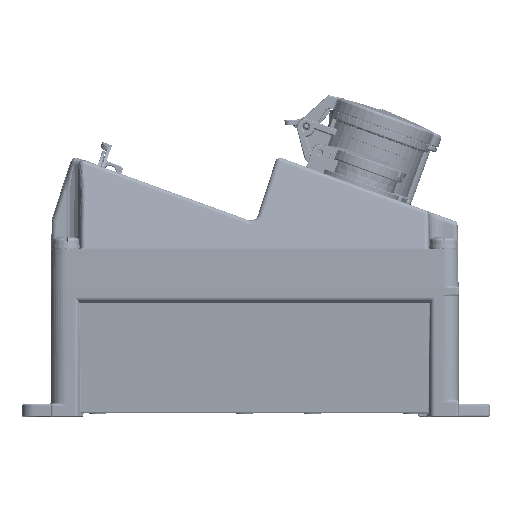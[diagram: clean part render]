
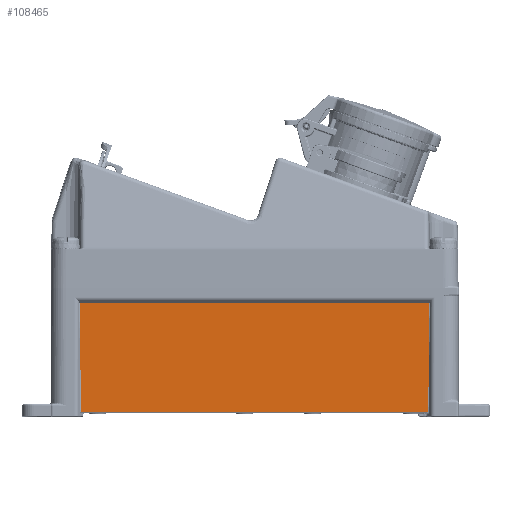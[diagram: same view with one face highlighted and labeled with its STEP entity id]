
A CAD part, left-side view. The second image highlights one B-rep face of the part: STEP entity #108465.
In plain terms, the highlighted planar face has unit normal (-1, 0, -0.018).
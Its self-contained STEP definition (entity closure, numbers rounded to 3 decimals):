
#17127=CARTESIAN_POINT('',(3.779,20.212,2.983));
#17128=CARTESIAN_POINT('',(3.779,20.204,2.983));
#17129=CARTESIAN_POINT('',(3.779,20.189,2.982));
#17130=CARTESIAN_POINT('',(3.779,20.167,2.982));
#17131=CARTESIAN_POINT('',(3.779,20.153,2.982));
#17132=CARTESIAN_POINT('',(3.779,20.145,2.981));
#17146=DIRECTION('',(0.,-1.,0.));
#17147=VECTOR('',#17146,220.443);
#17148=CARTESIAN_POINT('',(3.779,240.655,2.983));
#17149=LINE('40221',#17148,#17147);
#17249=CARTESIAN_POINT('',(3.779,20.145,2.981));
#17250=CARTESIAN_POINT('',(3.779,20.05,2.978));
#17251=CARTESIAN_POINT('',(3.779,19.864,2.959));
#17252=CARTESIAN_POINT('',(3.78,19.592,2.89));
#17253=CARTESIAN_POINT('',(3.782,19.427,2.822));
#17254=CARTESIAN_POINT('',(3.782,19.347,2.782));
#17256=CARTESIAN_POINT('',(3.782,19.347,2.782));
#17264=DIRECTION('',(-0.017,0.01,1.));
#17265=VECTOR('',#17264,69.263);
#17266=CARTESIAN_POINT('',(3.779,240.655,2.983));
#17267=LINE('40229',#17266,#17265);
#17268=DIRECTION('',(0.017,0.01,-1.));
#17269=VECTOR('',#17268,69.464);
#17270=CARTESIAN_POINT('',(2.57,18.647,72.232));
#17271=LINE('40243',#17270,#17269);
#17272=DIRECTION('',(0.,1.,0.));
#17273=VECTOR('',#17272,222.705);
#17274=CARTESIAN_POINT('',(2.57,18.647,72.232));
#17275=LINE('40242',#17274,#17273);
#17276=CARTESIAN_POINT('',(2.57,241.353,72.232));
#65455=CARTESIAN_POINT('',(3.779,20.212,2.983));
#65456=VERTEX_POINT('',#65455);
#65457=VERTEX_POINT('',#17132);
#65459=CARTESIAN_POINT('',(3.779,240.655,2.983));
#65460=VERTEX_POINT('',#65459);
#65466=VERTEX_POINT('',#17276);
#65475=VERTEX_POINT('',#17256);
#65476=CARTESIAN_POINT('',(2.57,18.647,72.232));
#65477=VERTEX_POINT('',#65476);
#108450=CARTESIAN_POINT('',(2.566,243.125,72.434));
#108451=DIRECTION('',(1.,0.,0.017));
#108452=DIRECTION('',(0.017,0.,-1.));
#108453=AXIS2_PLACEMENT_3D('',#108450,#108451,#108452);
#108454=PLANE('49359',#108453);
#108455=ORIENTED_EDGE('40241',*,*,#108437,.F.);
#108456=ORIENTED_EDGE('40217',*,*,#108131,.F.);
#108457=ORIENTED_EDGE('40221',*,*,#108155,.F.);
#108458=ORIENTED_EDGE('40229',*,*,#108208,.T.);
#108460=ORIENTED_EDGE('40242',*,*,#108459,.F.);
#108462=ORIENTED_EDGE('40243',*,*,#108461,.T.);
#108463=EDGE_LOOP('49359',(#108455,#108456,#108457,#108458,#108460,#108462));
#108464=FACE_OUTER_BOUND('49359',#108463,.F.);
#17133=B_SPLINE_CURVE_WITH_KNOTS('40217',3,(#17127,#17128,#17129,#17130,#17131,
#17132),.UNSPECIFIED.,.F.,.F.,(4,1,1,4),(0.,0.333,
0.667,1.),.UNSPECIFIED.);
#17255=B_SPLINE_CURVE_WITH_KNOTS('40241',3,(#17249,#17250,#17251,#17252,#17253,
#17254),.UNSPECIFIED.,.F.,.F.,(4,1,1,4),(0.,0.333,
0.667,1.),.UNSPECIFIED.);
#108131=EDGE_CURVE('40217',#65456,#65457,#17133,.T.);
#108155=EDGE_CURVE('40221',#65460,#65456,#17149,.T.);
#108208=EDGE_CURVE('40229',#65460,#65466,#17267,.T.);
#108437=EDGE_CURVE('40241',#65457,#65475,#17255,.T.);
#108459=EDGE_CURVE('40242',#65477,#65466,#17275,.T.);
#108461=EDGE_CURVE('40243',#65477,#65475,#17271,.T.);
#108465=ADVANCED_FACE('49359',(#108464),#108454,.F.);
